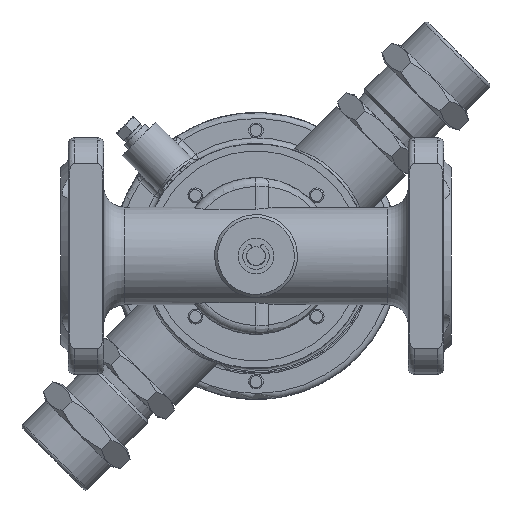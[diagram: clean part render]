
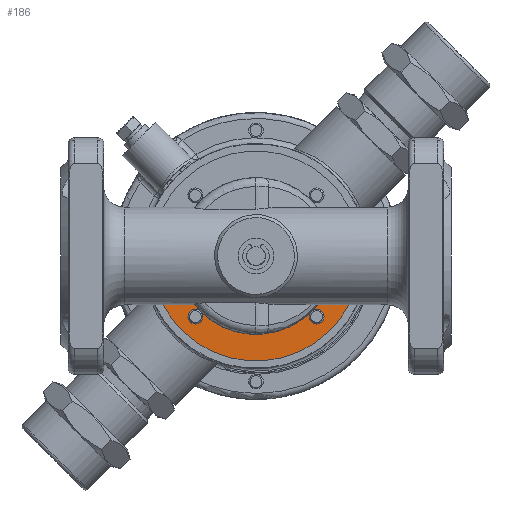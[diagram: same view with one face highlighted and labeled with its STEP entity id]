
A CAD part, front view. The second image highlights one B-rep face of the part: STEP entity #186.
In plain terms, the highlighted planar face has unit normal (0, -1, 0).
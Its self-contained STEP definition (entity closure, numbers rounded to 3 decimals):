
#186=ADVANCED_FACE('',(#6136),#6138,.F.);
#6136=FACE_OUTER_BOUND('',#6137,.T.);
#6137=EDGE_LOOP('',(#22757,#22758,#22759,#22760,#22761,#22762,#22763,#22764,#22765,
#22766,#22767,#22768));
#6138=PLANE('',#6139);
#6139=AXIS2_PLACEMENT_3D('',#6140,#6141,#6142);
#6140=CARTESIAN_POINT('',(0.,16.,0.));
#6141=DIRECTION('',(0.,1.,-0.));
#6142=DIRECTION('',(1.,0.,0.));
#22757=ORIENTED_EDGE('',*,*,#36521,.T.);
#22758=ORIENTED_EDGE('',*,*,#36522,.T.);
#22759=ORIENTED_EDGE('',*,*,#36523,.T.);
#22760=ORIENTED_EDGE('',*,*,#36524,.T.);
#22761=ORIENTED_EDGE('',*,*,#36525,.T.);
#22762=ORIENTED_EDGE('',*,*,#36475,.T.);
#22763=ORIENTED_EDGE('',*,*,#36517,.F.);
#22764=ORIENTED_EDGE('',*,*,#36526,.F.);
#22765=ORIENTED_EDGE('',*,*,#36491,.F.);
#22766=ORIENTED_EDGE('',*,*,#36484,.T.);
#22767=ORIENTED_EDGE('',*,*,#36527,.T.);
#22768=ORIENTED_EDGE('',*,*,#36528,.T.);
#36475=EDGE_CURVE('',#41612,#41610,#41613,.F.);
#36484=EDGE_CURVE('',#41630,#41628,#41631,.F.);
#36491=EDGE_CURVE('',#41630,#41642,#41643,.T.);
#36517=EDGE_CURVE('',#41681,#41610,#41683,.T.);
#36521=EDGE_CURVE('',#41688,#41689,#41690,.T.);
#36522=EDGE_CURVE('',#41689,#41691,#41692,.F.);
#36523=EDGE_CURVE('',#41691,#41693,#41694,.T.);
#36524=EDGE_CURVE('',#41693,#41691,#41695,.T.);
#36525=EDGE_CURVE('',#41691,#41612,#41696,.F.);
#36526=EDGE_CURVE('',#41642,#41681,#41697,.T.);
#36527=EDGE_CURVE('',#41628,#41689,#41698,.F.);
#36528=EDGE_CURVE('',#41689,#41688,#41699,.T.);
#41610=VERTEX_POINT('',#50759);
#41612=VERTEX_POINT('',#50764);
#41613=LINE('',#50765,#50766);
#41628=VERTEX_POINT('',#50957);
#41630=VERTEX_POINT('',#50966);
#41631=LINE('',#50967,#50968);
#41642=VERTEX_POINT('',#50995);
#41643=LINE('',#50996,#50997);
#41681=VERTEX_POINT('',#51170);
#41683=LINE('',#51174,#51175);
#41688=VERTEX_POINT('',#51189);
#41689=VERTEX_POINT('',#51190);
#41690=CIRCLE('',#51191,2.5);
#41691=VERTEX_POINT('',#51195);
#41692=CIRCLE('',#51196,26.5);
#41693=VERTEX_POINT('',#51200);
#41694=CIRCLE('',#51201,2.5);
#41695=CIRCLE('',#51205,2.5);
#41696=CIRCLE('',#51209,26.5);
#41697=CIRCLE('',#51213,35.5);
#41698=CIRCLE('',#51217,26.5);
#41699=CIRCLE('',#51221,2.5);
#50759=CARTESIAN_POINT('',(-31.5,16.,-4.031));
#50764=CARTESIAN_POINT('',(-26.192,16.,-4.031));
#50765=CARTESIAN_POINT('',(-31.5,16.,-4.031));
#50766=VECTOR('',#50767,1.);
#50767=DIRECTION('',(1.,0.,0.));
#50957=CARTESIAN_POINT('',(26.192,16.,-4.031));
#50966=CARTESIAN_POINT('',(31.5,16.,-4.031));
#50967=CARTESIAN_POINT('',(26.192,16.,-4.031));
#50968=VECTOR('',#50969,1.);
#50969=DIRECTION('',(1.,0.,0.));
#50995=CARTESIAN_POINT('',(31.5,16.,-16.371));
#50996=CARTESIAN_POINT('',(31.5,16.,-4.031));
#50997=VECTOR('',#50998,1.);
#50998=DIRECTION('',(0.,0.,-1.));
#51170=CARTESIAN_POINT('',(-31.5,16.,-16.371));
#51174=CARTESIAN_POINT('',(-31.5,16.,-16.371));
#51175=VECTOR('',#51176,1.);
#51176=DIRECTION('',(0.,0.,1.));
#51189=CARTESIAN_POINT('',(23.006,16.,-20.506));
#51190=CARTESIAN_POINT('',(18.738,16.,-18.738));
#51191=AXIS2_PLACEMENT_3D('',#51192,#51193,#51194);
#51192=CARTESIAN_POINT('',(20.506,16.,-20.506));
#51193=DIRECTION('',(-0.,1.,0.));
#51194=DIRECTION('',(1.,0.,0.));
#51195=CARTESIAN_POINT('',(-18.738,16.,-18.738));
#51196=AXIS2_PLACEMENT_3D('',#51197,#51198,#51199);
#51197=CARTESIAN_POINT('',(0.,16.,0.));
#51198=DIRECTION('',(0.,-1.,0.));
#51199=DIRECTION('',(-0.707,0.,-0.707));
#51200=CARTESIAN_POINT('',(-18.006,16.,-20.506));
#51201=AXIS2_PLACEMENT_3D('',#51202,#51203,#51204);
#51202=CARTESIAN_POINT('',(-20.506,16.,-20.506));
#51203=DIRECTION('',(-0.,1.,0.));
#51204=DIRECTION('',(0.707,0.,0.707));
#51205=AXIS2_PLACEMENT_3D('',#51206,#51207,#51208);
#51206=CARTESIAN_POINT('',(-20.506,16.,-20.506));
#51207=DIRECTION('',(-0.,1.,0.));
#51208=DIRECTION('',(1.,0.,0.));
#51209=AXIS2_PLACEMENT_3D('',#51210,#51211,#51212);
#51210=CARTESIAN_POINT('',(0.,16.,0.));
#51211=DIRECTION('',(0.,-1.,0.));
#51212=DIRECTION('',(-0.988,0.,-0.152));
#51213=AXIS2_PLACEMENT_3D('',#51214,#51215,#51216);
#51214=CARTESIAN_POINT('',(0.,16.,0.));
#51215=DIRECTION('',(-0.,1.,0.));
#51216=DIRECTION('',(0.887,0.,-0.461));
#51217=AXIS2_PLACEMENT_3D('',#51218,#51219,#51220);
#51218=CARTESIAN_POINT('',(0.,16.,0.));
#51219=DIRECTION('',(0.,-1.,0.));
#51220=DIRECTION('',(0.707,0.,-0.707));
#51221=AXIS2_PLACEMENT_3D('',#51222,#51223,#51224);
#51222=CARTESIAN_POINT('',(20.506,16.,-20.506));
#51223=DIRECTION('',(-0.,1.,0.));
#51224=DIRECTION('',(-0.707,0.,0.707));
